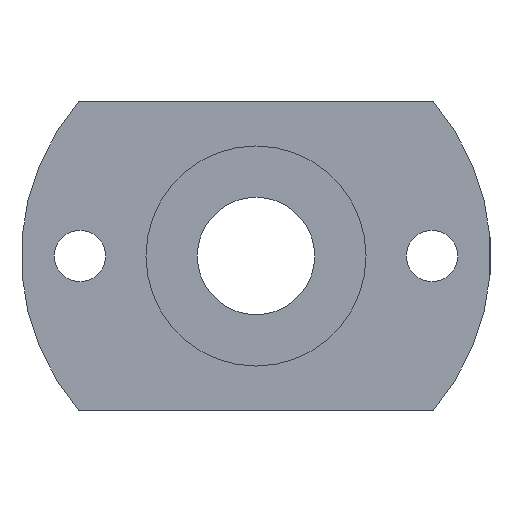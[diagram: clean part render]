
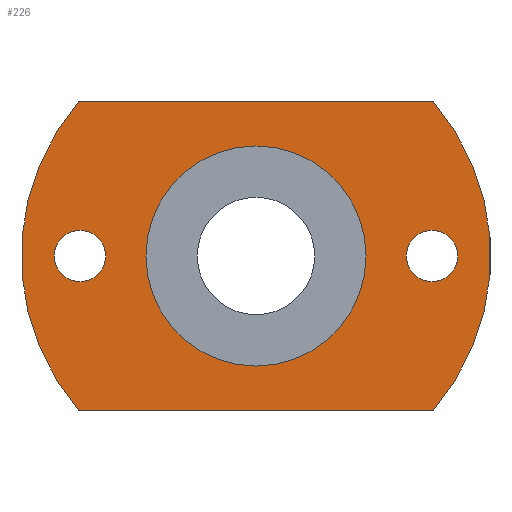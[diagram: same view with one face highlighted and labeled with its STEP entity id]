
A CAD part, left-side view. The second image highlights one B-rep face of the part: STEP entity #226.
In plain terms, the highlighted planar face has unit normal (-1, 0, 0).
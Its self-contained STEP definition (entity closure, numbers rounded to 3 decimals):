
#24=PLANE('',#267);
#31=LINE('',#392,#39);
#32=LINE('',#396,#40);
#39=VECTOR('',#326,1000.);
#40=VECTOR('',#329,1000.);
#64=ORIENTED_EDGE('',*,*,#108,.T.);
#65=ORIENTED_EDGE('',*,*,#109,.F.);
#66=ORIENTED_EDGE('',*,*,#110,.T.);
#67=ORIENTED_EDGE('',*,*,#93,.F.);
#68=ORIENTED_EDGE('',*,*,#111,.T.);
#69=ORIENTED_EDGE('',*,*,#112,.T.);
#70=ORIENTED_EDGE('',*,*,#100,.T.);
#93=EDGE_CURVE('',#117,#118,#136,.T.);
#100=EDGE_CURVE('',#124,#124,#142,.T.);
#108=EDGE_CURVE('',#117,#131,#31,.T.);
#109=EDGE_CURVE('',#132,#131,#148,.T.);
#110=EDGE_CURVE('',#132,#118,#32,.T.);
#111=EDGE_CURVE('',#133,#133,#149,.T.);
#112=EDGE_CURVE('',#134,#134,#150,.T.);
#117=VERTEX_POINT('',#356);
#118=VERTEX_POINT('',#358);
#124=VERTEX_POINT('',#374);
#131=VERTEX_POINT('',#393);
#132=VERTEX_POINT('',#395);
#133=VERTEX_POINT('',#398);
#134=VERTEX_POINT('',#400);
#136=CIRCLE('',#249,16.);
#142=CIRCLE('',#258,7.5);
#148=CIRCLE('',#268,16.);
#149=CIRCLE('',#269,1.75);
#150=CIRCLE('',#270,1.75);
#166=EDGE_LOOP('',(#64,#65,#66,#67));
#167=EDGE_LOOP('',(#68));
#168=EDGE_LOOP('',(#69));
#169=EDGE_LOOP('',(#70));
#196=FACE_BOUND('',#166,.T.);
#197=FACE_BOUND('',#167,.T.);
#198=FACE_BOUND('',#168,.T.);
#199=FACE_BOUND('',#169,.T.);
#226=ADVANCED_FACE('',(#196,#197,#198,#199),#24,.F.);
#249=AXIS2_PLACEMENT_3D('',#357,#285,#286);
#258=AXIS2_PLACEMENT_3D('',#373,#304,#305);
#267=AXIS2_PLACEMENT_3D('',#391,#324,#325);
#268=AXIS2_PLACEMENT_3D('',#394,#327,#328);
#269=AXIS2_PLACEMENT_3D('',#397,#330,#331);
#270=AXIS2_PLACEMENT_3D('',#399,#332,#333);
#285=DIRECTION('',(1.,0.,0.));
#286=DIRECTION('',(0.,0.,-1.));
#304=DIRECTION('',(1.,0.,0.));
#305=DIRECTION('',(0.,0.,-1.));
#324=DIRECTION('',(1.,0.,0.));
#325=DIRECTION('',(0.,0.,-1.));
#326=DIRECTION('',(0.,1.,0.));
#327=DIRECTION('',(1.,0.,0.));
#328=DIRECTION('',(0.,0.,-1.));
#329=DIRECTION('',(0.,-1.,0.));
#330=DIRECTION('',(1.,0.,0.));
#331=DIRECTION('',(0.,0.,-1.));
#332=DIRECTION('',(1.,0.,0.));
#333=DIRECTION('',(0.,0.,-1.));
#356=CARTESIAN_POINT('',(17.5,-12.073,10.5));
#357=CARTESIAN_POINT('',(17.5,0.,0.));
#358=CARTESIAN_POINT('',(17.5,-12.073,-10.5));
#373=CARTESIAN_POINT('',(17.5,0.,0.));
#374=CARTESIAN_POINT('',(17.5,0.,-7.5));
#391=CARTESIAN_POINT('',(17.5,0.,0.));
#392=CARTESIAN_POINT('',(17.5,20.839,10.5));
#393=CARTESIAN_POINT('',(17.5,12.073,10.5));
#394=CARTESIAN_POINT('',(17.5,0.,0.));
#395=CARTESIAN_POINT('',(17.5,12.073,-10.5));
#396=CARTESIAN_POINT('',(17.5,20.839,-10.5));
#397=CARTESIAN_POINT('',(17.5,-12.,0.));
#398=CARTESIAN_POINT('',(17.5,-12.,-1.75));
#399=CARTESIAN_POINT('',(17.5,12.,0.));
#400=CARTESIAN_POINT('',(17.5,12.,-1.75));
